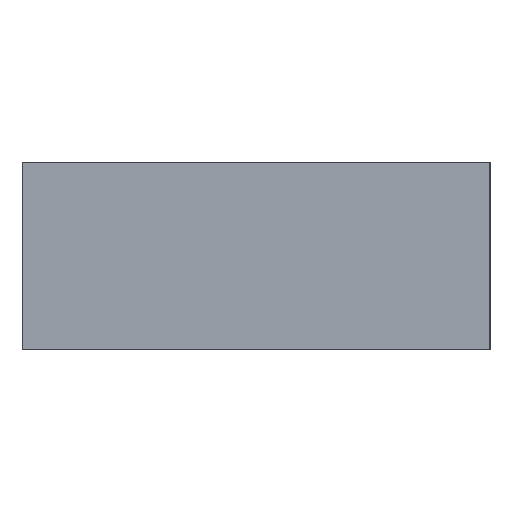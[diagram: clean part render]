
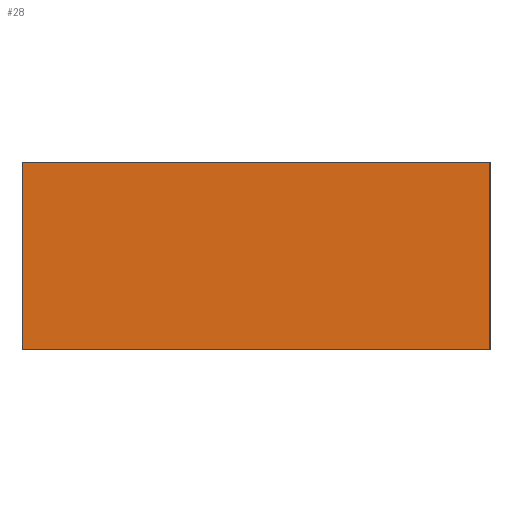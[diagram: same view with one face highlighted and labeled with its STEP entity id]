
A CAD part, left-side view. The second image highlights one B-rep face of the part: STEP entity #28.
In plain terms, the highlighted planar face has unit normal (-1, 0, 0).
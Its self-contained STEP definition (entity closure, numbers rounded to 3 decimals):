
#28=ADVANCED_FACE('',(#34),#186,.T.);
#34=FACE_OUTER_BOUND('',#40,.T.);
#40=EDGE_LOOP('',(#58,#59,#60,#61));
#58=ORIENTED_EDGE('',*,*,#136,.F.);
#59=ORIENTED_EDGE('',*,*,#133,.F.);
#60=ORIENTED_EDGE('',*,*,#130,.F.);
#61=ORIENTED_EDGE('',*,*,#126,.F.);
#66=PCURVE('',#182,#90);
#70=PCURVE('',#183,#94);
#74=PCURVE('',#184,#98);
#78=PCURVE('',#185,#102);
#82=PCURVE('',#186,#106);
#83=PCURVE('',#186,#107);
#84=PCURVE('',#186,#108);
#85=PCURVE('',#186,#109);
#90=DEFINITIONAL_REPRESENTATION('',(#139),#313);
#94=DEFINITIONAL_REPRESENTATION('',(#147),#313);
#98=DEFINITIONAL_REPRESENTATION('',(#154),#313);
#102=DEFINITIONAL_REPRESENTATION('',(#161),#313);
#106=DEFINITIONAL_REPRESENTATION('',(#166),#313);
#107=DEFINITIONAL_REPRESENTATION('',(#167),#313);
#108=DEFINITIONAL_REPRESENTATION('',(#168),#313);
#109=DEFINITIONAL_REPRESENTATION('',(#169),#313);
#114=SURFACE_CURVE('',#138,(#66,#85),.PCURVE_S1.);
#118=SURFACE_CURVE('',#146,(#70,#84),.PCURVE_S1.);
#121=SURFACE_CURVE('',#153,(#74,#83),.PCURVE_S1.);
#124=SURFACE_CURVE('',#160,(#78,#82),.PCURVE_S1.);
#126=EDGE_CURVE('',#174,#175,#114,.T.);
#130=EDGE_CURVE('',#175,#178,#118,.T.);
#133=EDGE_CURVE('',#178,#180,#121,.T.);
#136=EDGE_CURVE('',#180,#174,#124,.T.);
#138=B_SPLINE_CURVE_WITH_KNOTS('',1,(#240,#241),.UNSPECIFIED.,.F.,.F.,(2,
2),(-34.,-28.),.UNSPECIFIED.);
#139=B_SPLINE_CURVE_WITH_KNOTS('',1,(#242,#243),.UNSPECIFIED.,.F.,.F.,(2,
2),(-34.,-28.),.UNSPECIFIED.);
#146=B_SPLINE_CURVE_WITH_KNOTS('',1,(#256,#257),.UNSPECIFIED.,.F.,.F.,(2,
2),(-28.,-17.),.UNSPECIFIED.);
#147=B_SPLINE_CURVE_WITH_KNOTS('',1,(#258,#259),.UNSPECIFIED.,.F.,.F.,(2,
2),(-28.,-17.),.UNSPECIFIED.);
#153=B_SPLINE_CURVE_WITH_KNOTS('',1,(#270,#271),.UNSPECIFIED.,.F.,.F.,(2,
2),(-17.,-11.),.UNSPECIFIED.);
#154=B_SPLINE_CURVE_WITH_KNOTS('',1,(#272,#273),.UNSPECIFIED.,.F.,.F.,(2,
2),(-17.,-11.),.UNSPECIFIED.);
#160=B_SPLINE_CURVE_WITH_KNOTS('',1,(#284,#285),.UNSPECIFIED.,.F.,.F.,(2,
2),(-11.,0.),.UNSPECIFIED.);
#161=B_SPLINE_CURVE_WITH_KNOTS('',1,(#286,#287),.UNSPECIFIED.,.F.,.F.,(2,
2),(-11.,0.),.UNSPECIFIED.);
#166=B_SPLINE_CURVE_WITH_KNOTS('',1,(#296,#297),.UNSPECIFIED.,.F.,.F.,(2,
2),(-11.,0.),.UNSPECIFIED.);
#167=B_SPLINE_CURVE_WITH_KNOTS('',1,(#298,#299),.UNSPECIFIED.,.F.,.F.,(2,
2),(-17.,-11.),.UNSPECIFIED.);
#168=B_SPLINE_CURVE_WITH_KNOTS('',1,(#300,#301),.UNSPECIFIED.,.F.,.F.,(2,
2),(-28.,-17.),.UNSPECIFIED.);
#169=B_SPLINE_CURVE_WITH_KNOTS('',1,(#302,#303),.UNSPECIFIED.,.F.,.F.,(2,
2),(-34.,-28.),.UNSPECIFIED.);
#174=VERTEX_POINT('',#232);
#175=VERTEX_POINT('',#233);
#178=VERTEX_POINT('',#236);
#180=VERTEX_POINT('',#238);
#182=PLANE('',#208);
#183=PLANE('',#209);
#184=PLANE('',#210);
#185=PLANE('',#211);
#186=PLANE('',#212);
#208=AXIS2_PLACEMENT_3D('',#226,#217,$);
#209=AXIS2_PLACEMENT_3D('',#227,#218,$);
#210=AXIS2_PLACEMENT_3D('',#228,#219,$);
#211=AXIS2_PLACEMENT_3D('',#229,#220,$);
#212=AXIS2_PLACEMENT_3D('',#230,#221,$);
#217=DIRECTION('',(0.,1.,0.));
#218=DIRECTION('',(0.,0.,1.));
#219=DIRECTION('',(0.,-1.,0.));
#220=DIRECTION('',(0.,0.,-1.));
#221=DIRECTION('',(-1.,0.,0.));
#226=CARTESIAN_POINT('',(-797.,320.,133.));
#227=CARTESIAN_POINT('',(-797.,320.,137.));
#228=CARTESIAN_POINT('',(-797.,310.,137.));
#229=CARTESIAN_POINT('',(-797.,310.,133.));
#230=CARTESIAN_POINT('',(-797.,320.,137.));
#232=CARTESIAN_POINT('',(-797.,320.,133.));
#233=CARTESIAN_POINT('',(-797.,320.,137.));
#236=CARTESIAN_POINT('',(-797.,310.,137.));
#238=CARTESIAN_POINT('',(-797.,310.,133.));
#240=CARTESIAN_POINT('',(-797.,320.,133.));
#241=CARTESIAN_POINT('',(-797.,320.,137.));
#242=CARTESIAN_POINT('',(-34.,0.));
#243=CARTESIAN_POINT('',(-28.,0.));
#256=CARTESIAN_POINT('',(-797.,320.,137.));
#257=CARTESIAN_POINT('',(-797.,310.,137.));
#258=CARTESIAN_POINT('',(-28.,0.));
#259=CARTESIAN_POINT('',(-17.,0.));
#270=CARTESIAN_POINT('',(-797.,310.,137.));
#271=CARTESIAN_POINT('',(-797.,310.,133.));
#272=CARTESIAN_POINT('',(-17.,0.));
#273=CARTESIAN_POINT('',(-11.,0.));
#284=CARTESIAN_POINT('',(-797.,310.,133.));
#285=CARTESIAN_POINT('',(-797.,320.,133.));
#286=CARTESIAN_POINT('',(-11.,0.));
#287=CARTESIAN_POINT('',(0.,0.));
#296=CARTESIAN_POINT('',(0.,10.));
#297=CARTESIAN_POINT('',(0.,0.));
#298=CARTESIAN_POINT('',(-4.,10.));
#299=CARTESIAN_POINT('',(0.,10.));
#300=CARTESIAN_POINT('',(-4.,0.));
#301=CARTESIAN_POINT('',(-4.,10.));
#302=CARTESIAN_POINT('',(0.,0.));
#303=CARTESIAN_POINT('',(-4.,0.));
#313=(
GEOMETRIC_REPRESENTATION_CONTEXT(2)
PARAMETRIC_REPRESENTATION_CONTEXT()
REPRESENTATION_CONTEXT('pspace','')
);
